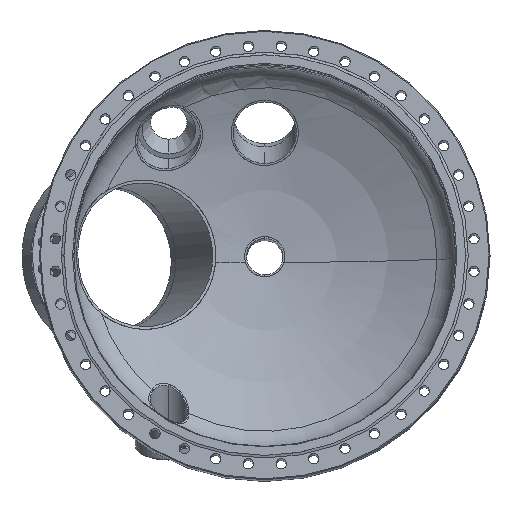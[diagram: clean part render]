
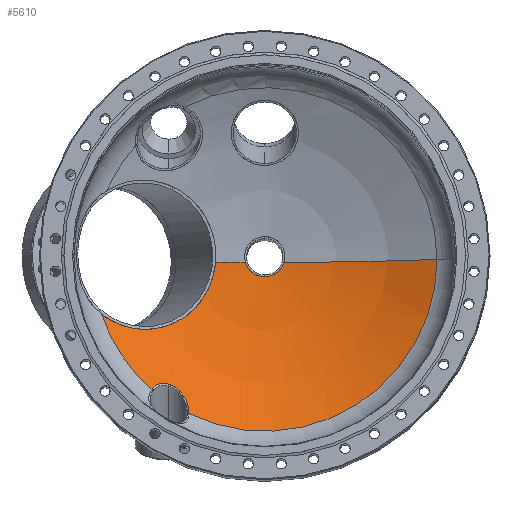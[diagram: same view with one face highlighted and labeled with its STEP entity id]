
A CAD part, top view. The second image highlights one B-rep face of the part: STEP entity #5610.
In plain terms, the highlighted spherical face has radius 393 mm.
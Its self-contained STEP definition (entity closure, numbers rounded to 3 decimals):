
#4495=CARTESIAN_POINT('',(0.,0.,-222.032));
#4496=DIRECTION('',(0.,0.,-1.));
#4497=DIRECTION('',(-0.756,0.655,0.));
#4498=AXIS2_PLACEMENT_3D('',#4495,#4496,#4497);
#4526=CARTESIAN_POINT('',(0.,0.,-222.032));
#4527=DIRECTION('',(0.,0.,-1.));
#4528=DIRECTION('',(0.,-1.,0.));
#4529=AXIS2_PLACEMENT_3D('',#4526,#4527,#4528);
#4804=CARTESIAN_POINT('',(0.,0.,127.5));
#4805=DIRECTION('',(-1.,0.,0.));
#4806=DIRECTION('',(0.,-0.051,-0.999));
#4807=AXIS2_PLACEMENT_3D('',#4804,#4805,#4806);
#4833=CARTESIAN_POINT('',(0.,0.,127.5));
#4834=DIRECTION('',(1.,0.,0.));
#4835=DIRECTION('',(0.,0.051,-0.999));
#4836=AXIS2_PLACEMENT_3D('',#4833,#4834,#4835);
#5092=CARTESIAN_POINT('',(0.,51.302,
-262.137));
#5093=CARTESIAN_POINT('',(-1.69,51.44,
-262.119));
#5094=CARTESIAN_POINT('',(-5.062,51.822,
-262.047));
#5095=CARTESIAN_POINT('',(-10.085,52.711,
-261.83));
#5096=CARTESIAN_POINT('',(-15.033,53.912,
-261.505));
#5097=CARTESIAN_POINT('',(-19.874,55.413,
-261.077));
#5098=CARTESIAN_POINT('',(-24.6,57.208,
-260.546));
#5099=CARTESIAN_POINT('',(-29.288,59.334,
-259.902));
#5100=CARTESIAN_POINT('',(-33.897,61.804,
-259.138));
#5101=CARTESIAN_POINT('',(-37.993,64.347,
-258.34));
#5102=CARTESIAN_POINT('',(-42.017,67.182,
-257.441));
#5103=CARTESIAN_POINT('',(-46.341,70.676,
-256.321));
#5104=CARTESIAN_POINT('',(-50.801,74.871,
-254.962));
#5105=CARTESIAN_POINT('',(-55.318,79.89,
-253.32));
#5106=CARTESIAN_POINT('',(-59.72,85.793,
-251.372));
#5107=CARTESIAN_POINT('',(-63.945,92.869,
-249.014));
#5108=CARTESIAN_POINT('',(-67.73,101.307,
-246.176));
#5109=CARTESIAN_POINT('',(-70.704,111.36,
-242.762));
#5110=CARTESIAN_POINT('',(-72.255,122.876,
-238.811));
#5111=CARTESIAN_POINT('',(-71.816,135.307,
-234.5));
#5112=CARTESIAN_POINT('',(-69.052,147.997,
-230.05));
#5113=CARTESIAN_POINT('',(-63.954,160.088,
-225.759));
#5114=CARTESIAN_POINT('',(-59.355,167.153,
-223.22));
#5115=CARTESIAN_POINT('',(-56.808,170.439,
-222.032));
#5117=CARTESIAN_POINT('',(-15.,0.,-265.214));
#5118=CARTESIAN_POINT('',(-15.,1.485,-265.214));
#5119=CARTESIAN_POINT('',(-14.682,4.461,
-265.209));
#5120=CARTESIAN_POINT('',(-13.28,8.725,
-265.187));
#5121=CARTESIAN_POINT('',(-10.961,12.65,
-265.152));
#5122=CARTESIAN_POINT('',(-7.942,15.917,
-265.106));
#5123=CARTESIAN_POINT('',(-4.208,18.539,
-265.049));
#5124=CARTESIAN_POINT('',(-1.433,19.697,
-265.006));
#5125=CARTESIAN_POINT('',(0.,20.125,-264.984));
#5127=CARTESIAN_POINT('',(0.,-20.125,
-264.984));
#5128=CARTESIAN_POINT('',(-1.432,-19.698,
-265.006));
#5129=CARTESIAN_POINT('',(-4.207,-18.54,
-265.049));
#5130=CARTESIAN_POINT('',(-7.947,-15.913,
-265.106));
#5131=CARTESIAN_POINT('',(-10.967,-12.642,
-265.152));
#5132=CARTESIAN_POINT('',(-13.282,-8.721,
-265.187));
#5133=CARTESIAN_POINT('',(-14.682,-4.46,
-265.209));
#5134=CARTESIAN_POINT('',(-15.,-1.484,-265.214));
#5135=CARTESIAN_POINT('',(-15.,0.,-265.214));
#5137=CARTESIAN_POINT('',(-129.889,100.,-229.681));
#5138=CARTESIAN_POINT('',(-130.265,98.796,
-229.881));
#5139=CARTESIAN_POINT('',(-131.265,96.37,
-230.183));
#5140=CARTESIAN_POINT('',(-133.592,92.688,
-230.296));
#5141=CARTESIAN_POINT('',(-136.474,89.375,
-230.051));
#5142=CARTESIAN_POINT('',(-139.819,86.443,
-229.478));
#5143=CARTESIAN_POINT('',(-143.25,84.095,
-228.678));
#5144=CARTESIAN_POINT('',(-147.057,82.057,
-227.601));
#5145=CARTESIAN_POINT('',(-151.442,80.357,
-226.146));
#5146=CARTESIAN_POINT('',(-156.26,79.219,
-224.304));
#5147=CARTESIAN_POINT('',(-159.64,78.969,
-222.831));
#5148=CARTESIAN_POINT('',(-161.353,79.007,
-222.032));
#5150=CARTESIAN_POINT('',(-135.822,117.597,
-222.032));
#5151=CARTESIAN_POINT('',(-134.97,117.038,
-222.551));
#5152=CARTESIAN_POINT('',(-133.471,115.837,
-223.526));
#5153=CARTESIAN_POINT('',(-131.82,113.969,
-224.758));
#5154=CARTESIAN_POINT('',(-130.615,112.053,
-225.82));
#5155=CARTESIAN_POINT('',(-129.782,110.111,
-226.735));
#5156=CARTESIAN_POINT('',(-129.267,108.168,
-227.521));
#5157=CARTESIAN_POINT('',(-129.023,106.175,
-228.211));
#5158=CARTESIAN_POINT('',(-129.044,104.116,
-228.812));
#5159=CARTESIAN_POINT('',(-129.329,102.034,
-229.31));
#5160=CARTESIAN_POINT('',(-129.678,100.673,
-229.569));
#5161=CARTESIAN_POINT('',(-129.889,100.,-229.681));
#5183=CARTESIAN_POINT('',(0.,-179.657,-222.032));
#5185=VERTEX_POINT('',#5183);
#5191=CARTESIAN_POINT('',(-15.,0.,-265.214));
#5193=VERTEX_POINT('',#5191);
#5201=VERTEX_POINT('',#5125);
#5202=VERTEX_POINT('',#5127);
#5231=VERTEX_POINT('',#5137);
#5232=VERTEX_POINT('',#5148);
#5233=VERTEX_POINT('',#5150);
#5238=VERTEX_POINT('',#5092);
#5239=VERTEX_POINT('',#5115);
#5592=CARTESIAN_POINT('',(0.,0.,127.5));
#5593=DIRECTION('',(0.,0.,-1.));
#5594=DIRECTION('',(0.,-1.,0.));
#5595=AXIS2_PLACEMENT_3D('',#5592,#5593,#5594);
#5596=SPHERICAL_SURFACE('',#5595,393.);
#5597=ORIENTED_EDGE('',*,*,#5359,.F.);
#5598=ORIENTED_EDGE('',*,*,#5471,.F.);
#5600=ORIENTED_EDGE('',*,*,#5599,.F.);
#5602=ORIENTED_EDGE('',*,*,#5601,.F.);
#5603=ORIENTED_EDGE('',*,*,#5465,.T.);
#5604=ORIENTED_EDGE('',*,*,#5334,.T.);
#5605=ORIENTED_EDGE('',*,*,#5585,.F.);
#5606=ORIENTED_EDGE('',*,*,#5569,.F.);
#5607=ORIENTED_EDGE('',*,*,#5328,.T.);
#5608=EDGE_LOOP('',(#5597,#5598,#5600,#5602,#5603,#5604,#5605,#5606,#5607));
#5609=FACE_OUTER_BOUND('',#5608,.F.);
#4499=CIRCLE('',#4498,179.657);
#4530=CIRCLE('',#4529,179.657);
#4808=CIRCLE('',#4807,393.);
#4837=CIRCLE('',#4836,393.);
#5116=B_SPLINE_CURVE_WITH_KNOTS('',3,(#5092,#5093,#5094,#5095,#5096,#5097,#5098,
#5099,#5100,#5101,#5102,#5103,#5104,#5105,#5106,#5107,#5108,#5109,#5110,#5111,
#5112,#5113,#5114,#5115),.UNSPECIFIED.,.F.,.F.,(4,1,1,1,1,1,1,1,1,1,1,1,1,1,1,1,
1,1,1,1,1,4),(0.,0.048,0.095,0.143,
0.19,0.238,0.286,0.333,
0.381,0.429,0.476,0.524,
0.571,0.619,0.667,0.714,
0.762,0.81,0.857,0.905,
0.952,1.),.UNSPECIFIED.);
#5126=B_SPLINE_CURVE_WITH_KNOTS('',3,(#5117,#5118,#5119,#5120,#5121,#5122,#5123,
#5124,#5125),.UNSPECIFIED.,.F.,.F.,(4,1,1,1,1,1,4),(0.,0.167,
0.333,0.5,0.667,0.833,1.),
.UNSPECIFIED.);
#5136=B_SPLINE_CURVE_WITH_KNOTS('',3,(#5127,#5128,#5129,#5130,#5131,#5132,#5133,
#5134,#5135),.UNSPECIFIED.,.F.,.F.,(4,1,1,1,1,1,4),(0.,0.167,
0.333,0.5,0.667,0.833,1.),
.UNSPECIFIED.);
#5149=B_SPLINE_CURVE_WITH_KNOTS('',3,(#5137,#5138,#5139,#5140,#5141,#5142,#5143,
#5144,#5145,#5146,#5147,#5148),.UNSPECIFIED.,.F.,.F.,(4,1,1,1,1,1,1,1,1,4),
(0.,0.111,0.222,0.333,0.444,
0.556,0.667,0.778,0.889,1.),
.UNSPECIFIED.);
#5162=B_SPLINE_CURVE_WITH_KNOTS('',3,(#5150,#5151,#5152,#5153,#5154,#5155,#5156,
#5157,#5158,#5159,#5160,#5161),.UNSPECIFIED.,.F.,.F.,(4,1,1,1,1,1,1,1,1,4),
(0.,0.111,0.222,0.333,0.444,
0.556,0.667,0.778,0.889,1.),
.UNSPECIFIED.);
#5328=EDGE_CURVE('',#5233,#5239,#4499,.T.);
#5334=EDGE_CURVE('',#5185,#5232,#4530,.T.);
#5359=EDGE_CURVE('',#5238,#5239,#5116,.T.);
#5465=EDGE_CURVE('',#5202,#5185,#4808,.T.);
#5471=EDGE_CURVE('',#5201,#5238,#4837,.T.);
#5569=EDGE_CURVE('',#5233,#5231,#5162,.T.);
#5585=EDGE_CURVE('',#5231,#5232,#5149,.T.);
#5599=EDGE_CURVE('',#5193,#5201,#5126,.T.);
#5601=EDGE_CURVE('',#5202,#5193,#5136,.T.);
#5610=ADVANCED_FACE('',(#5609),#5596,.F.);
